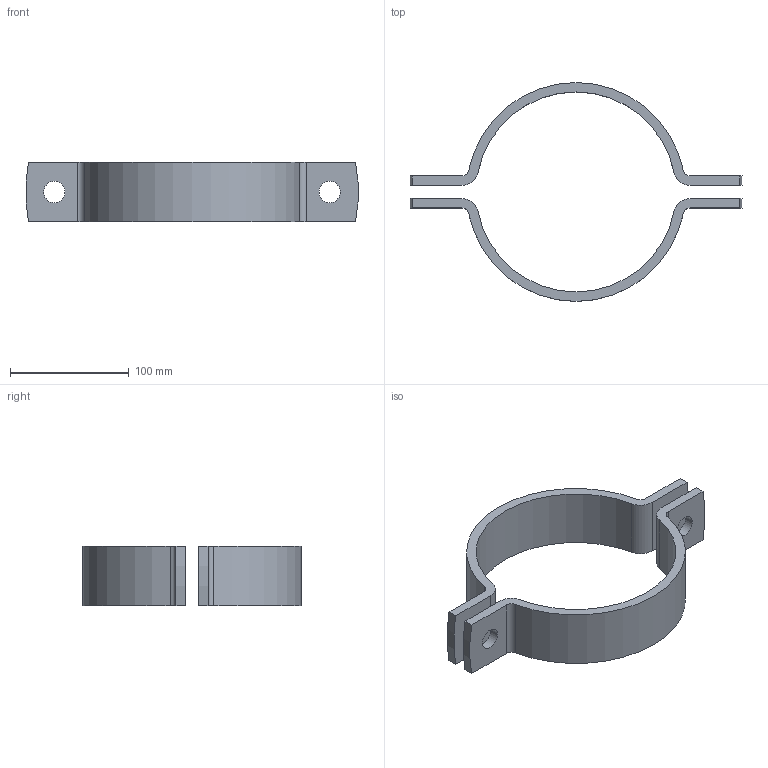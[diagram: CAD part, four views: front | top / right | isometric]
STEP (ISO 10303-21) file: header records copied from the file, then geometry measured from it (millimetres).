
FILE_DESCRIPTION (( 'STEP AP203' ), '1' );
FILE_NAME ('NW150-168,3 (DIN 3567).STEP', '2023-12-08T11:34:36', ( '' ), ( '' ), 'SwSTEP 2.0', 'SolidWorks 2023', '' );
FILE_SCHEMA (( 'CONFIG_CONTROL_DESIGN' ));
Length unit declared in the file: millimetre
Products named in the file (1): NW150-168,3 (DIN 3567)
Bounding box: 279.5 x 184.3 x 50 mm (x, y, z)
Volume: 276020.2 mm3; surface area: 83693.6 mm2
Topology: 2 solids, 2 shells, 36 faces, 96 edges, 64 vertices
Faces by surface type: cylinder 24, plane 12
Entity records: 1239 total; most frequent: DIRECTION 218, CARTESIAN_POINT 197, ORIENTED_EDGE 192, EDGE_CURVE 96, AXIS2_PLACEMENT_3D 85, VERTEX_POINT 64, VECTOR 48, CIRCLE 48
